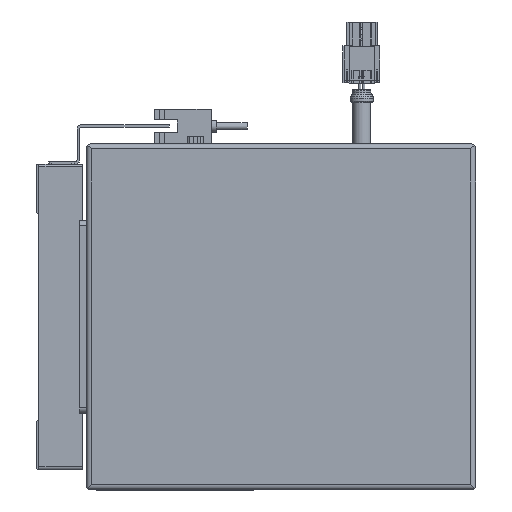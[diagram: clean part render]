
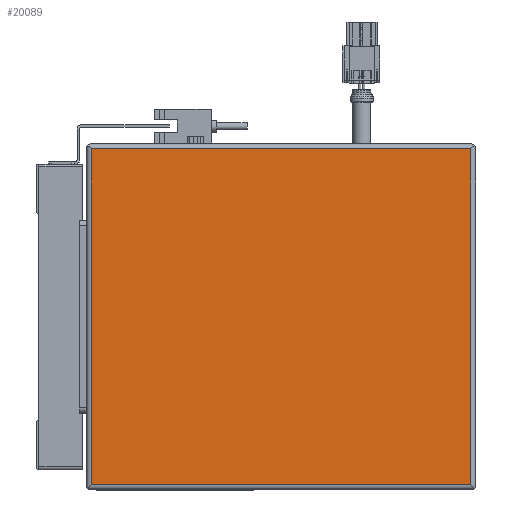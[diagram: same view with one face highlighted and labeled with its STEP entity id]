
A CAD part, left-side view. The second image highlights one B-rep face of the part: STEP entity #20089.
In plain terms, the highlighted planar face has unit normal (-1, 0, 0).
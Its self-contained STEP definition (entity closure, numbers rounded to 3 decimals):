
#4767=ORIENTED_EDGE('',*,*,#8505,.T.);
#4768=ORIENTED_EDGE('',*,*,#8506,.F.);
#4769=ORIENTED_EDGE('',*,*,#8507,.F.);
#4770=ORIENTED_EDGE('',*,*,#8508,.T.);
#8505=EDGE_CURVE('',#10718,#10719,#12847,.T.);
#8506=EDGE_CURVE('',#10720,#10719,#12848,.T.);
#8507=EDGE_CURVE('',#10721,#10720,#12849,.T.);
#8508=EDGE_CURVE('',#10721,#10718,#12850,.T.);
#10718=VERTEX_POINT('',#32069);
#10719=VERTEX_POINT('',#32070);
#10720=VERTEX_POINT('',#32072);
#10721=VERTEX_POINT('',#32074);
#12847=LINE('',#32068,#14952);
#12848=LINE('',#32071,#14953);
#12849=LINE('',#32073,#14954);
#12850=LINE('',#32075,#14955);
#14952=VECTOR('',#26114,1000.);
#14953=VECTOR('',#26115,1000.);
#14954=VECTOR('',#26116,1000.);
#14955=VECTOR('',#26117,1000.);
#16528=EDGE_LOOP('',(#4767,#4768,#4769,#4770));
#17997=FACE_BOUND('',#16528,.T.);
#19097=PLANE('',#21716);
#20089=ADVANCED_FACE('',(#17997),#19097,.F.);
#21716=AXIS2_PLACEMENT_3D('',#32067,#26112,#26113);
#26112=DIRECTION('',(1.,0.,0.));
#26113=DIRECTION('',(0.,0.,-1.));
#26114=DIRECTION('',(0.,-1.,0.));
#26115=DIRECTION('',(0.,0.,-1.));
#26116=DIRECTION('',(0.,-1.,0.));
#26117=DIRECTION('',(0.,0.,-1.));
#32067=CARTESIAN_POINT('',(-52.,2.,65.5));
#32068=CARTESIAN_POINT('',(-52.,152.,-65.5));
#32069=CARTESIAN_POINT('',(-52.,150.,-65.5));
#32070=CARTESIAN_POINT('',(-52.,2.,-65.5));
#32071=CARTESIAN_POINT('',(-52.,2.,67.5));
#32072=CARTESIAN_POINT('',(-52.,2.,65.5));
#32073=CARTESIAN_POINT('',(-52.,152.,65.5));
#32074=CARTESIAN_POINT('',(-52.,150.,65.5));
#32075=CARTESIAN_POINT('',(-52.,150.,67.5));
